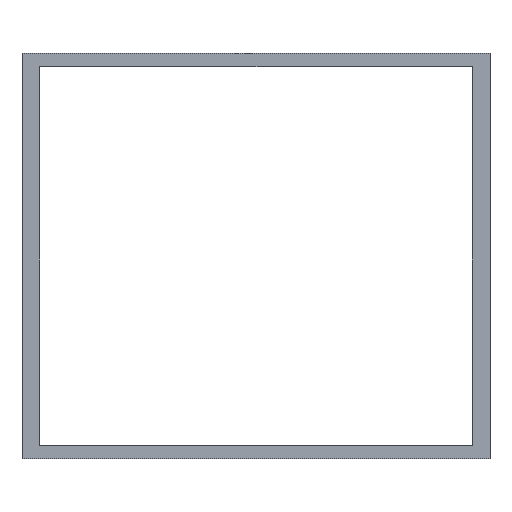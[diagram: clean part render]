
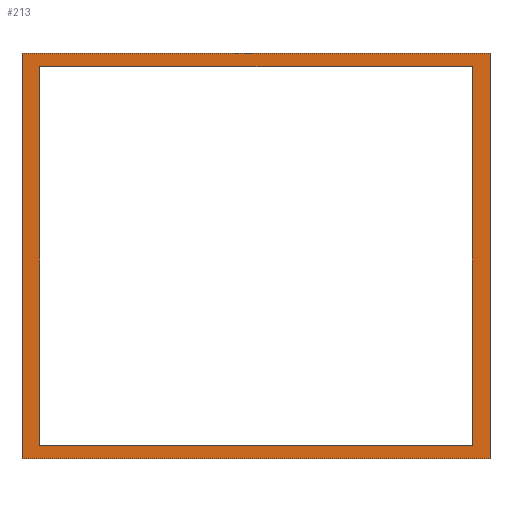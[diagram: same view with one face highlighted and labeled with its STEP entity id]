
A CAD part, top view. The second image highlights one B-rep face of the part: STEP entity #213.
In plain terms, the highlighted planar face has unit normal (0, 0, 1).
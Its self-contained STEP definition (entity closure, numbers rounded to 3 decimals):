
#24 = VERTEX_POINT('',#25);
#25 = CARTESIAN_POINT('',(-173.,-10.,0.));
#32 = PLANE('',#33);
#33 = AXIS2_PLACEMENT_3D('',#34,#35,#36);
#34 = CARTESIAN_POINT('',(-173.,-10.,-6.));
#35 = DIRECTION('',(1.,0.,0.));
#36 = DIRECTION('',(0.,0.,1.));
#44 = PLANE('',#45);
#45 = AXIS2_PLACEMENT_3D('',#46,#47,#48);
#46 = CARTESIAN_POINT('',(-173.,-10.,-6.));
#47 = DIRECTION('',(0.,1.,0.));
#48 = DIRECTION('',(0.,0.,1.));
#85 = VERTEX_POINT('',#86);
#86 = CARTESIAN_POINT('',(-173.,290.,0.));
#100 = PLANE('',#101);
#101 = AXIS2_PLACEMENT_3D('',#102,#103,#104);
#102 = CARTESIAN_POINT('',(-173.,290.,-6.));
#103 = DIRECTION('',(0.,1.,0.));
#104 = DIRECTION('',(0.,0.,1.));
#112 = EDGE_CURVE('',#24,#85,#113,.T.);
#113 = SURFACE_CURVE('',#114,(#118,#125),.PCURVE_S1.);
#114 = LINE('',#115,#116);
#115 = CARTESIAN_POINT('',(-173.,-10.,0.));
#116 = VECTOR('',#117,1.);
#117 = DIRECTION('',(0.,1.,0.));
#118 = PCURVE('',#32,#119);
#119 = DEFINITIONAL_REPRESENTATION('',(#120),#124);
#120 = LINE('',#121,#122);
#121 = CARTESIAN_POINT('',(6.,0.));
#122 = VECTOR('',#123,1.);
#123 = DIRECTION('',(0.,-1.));
#124 = ( GEOMETRIC_REPRESENTATION_CONTEXT(2) 
PARAMETRIC_REPRESENTATION_CONTEXT() REPRESENTATION_CONTEXT('2D SPACE',''
  ) );
#125 = PCURVE('',#126,#131);
#126 = PLANE('',#127);
#127 = AXIS2_PLACEMENT_3D('',#128,#129,#130);
#128 = CARTESIAN_POINT('',(-173.,-10.,0.));
#129 = DIRECTION('',(0.,0.,1.));
#130 = DIRECTION('',(1.,0.,0.));
#131 = DEFINITIONAL_REPRESENTATION('',(#132),#136);
#132 = LINE('',#133,#134);
#133 = CARTESIAN_POINT('',(0.,0.));
#134 = VECTOR('',#135,1.);
#135 = DIRECTION('',(0.,1.));
#136 = ( GEOMETRIC_REPRESENTATION_CONTEXT(2) 
PARAMETRIC_REPRESENTATION_CONTEXT() REPRESENTATION_CONTEXT('2D SPACE',''
  ) );
#165 = EDGE_CURVE('',#24,#166,#168,.T.);
#166 = VERTEX_POINT('',#167);
#167 = CARTESIAN_POINT('',(173.,-10.,0.));
#168 = SURFACE_CURVE('',#169,(#173,#180),.PCURVE_S1.);
#169 = LINE('',#170,#171);
#170 = CARTESIAN_POINT('',(-173.,-10.,0.));
#171 = VECTOR('',#172,1.);
#172 = DIRECTION('',(1.,0.,0.));
#173 = PCURVE('',#44,#174);
#174 = DEFINITIONAL_REPRESENTATION('',(#175),#179);
#175 = LINE('',#176,#177);
#176 = CARTESIAN_POINT('',(6.,0.));
#177 = VECTOR('',#178,1.);
#178 = DIRECTION('',(0.,1.));
#179 = ( GEOMETRIC_REPRESENTATION_CONTEXT(2) 
PARAMETRIC_REPRESENTATION_CONTEXT() REPRESENTATION_CONTEXT('2D SPACE',''
  ) );
#180 = PCURVE('',#126,#181);
#181 = DEFINITIONAL_REPRESENTATION('',(#182),#186);
#182 = LINE('',#183,#184);
#183 = CARTESIAN_POINT('',(0.,0.));
#184 = VECTOR('',#185,1.);
#185 = DIRECTION('',(1.,0.));
#186 = ( GEOMETRIC_REPRESENTATION_CONTEXT(2) 
PARAMETRIC_REPRESENTATION_CONTEXT() REPRESENTATION_CONTEXT('2D SPACE',''
  ) );
#202 = PLANE('',#203);
#203 = AXIS2_PLACEMENT_3D('',#204,#205,#206);
#204 = CARTESIAN_POINT('',(173.,-10.,-6.));
#205 = DIRECTION('',(1.,0.,0.));
#206 = DIRECTION('',(0.,0.,1.));
#213 = ADVANCED_FACE('',(#214,#262),#126,.T.);
#214 = FACE_BOUND('',#215,.T.);
#215 = EDGE_LOOP('',(#216,#217,#218,#241));
#216 = ORIENTED_EDGE('',*,*,#112,.F.);
#217 = ORIENTED_EDGE('',*,*,#165,.T.);
#218 = ORIENTED_EDGE('',*,*,#219,.T.);
#219 = EDGE_CURVE('',#166,#220,#222,.T.);
#220 = VERTEX_POINT('',#221);
#221 = CARTESIAN_POINT('',(173.,290.,0.));
#222 = SURFACE_CURVE('',#223,(#227,#234),.PCURVE_S1.);
#223 = LINE('',#224,#225);
#224 = CARTESIAN_POINT('',(173.,-10.,0.));
#225 = VECTOR('',#226,1.);
#226 = DIRECTION('',(0.,1.,0.));
#227 = PCURVE('',#126,#228);
#228 = DEFINITIONAL_REPRESENTATION('',(#229),#233);
#229 = LINE('',#230,#231);
#230 = CARTESIAN_POINT('',(346.,0.));
#231 = VECTOR('',#232,1.);
#232 = DIRECTION('',(0.,1.));
#233 = ( GEOMETRIC_REPRESENTATION_CONTEXT(2) 
PARAMETRIC_REPRESENTATION_CONTEXT() REPRESENTATION_CONTEXT('2D SPACE',''
  ) );
#234 = PCURVE('',#202,#235);
#235 = DEFINITIONAL_REPRESENTATION('',(#236),#240);
#236 = LINE('',#237,#238);
#237 = CARTESIAN_POINT('',(6.,0.));
#238 = VECTOR('',#239,1.);
#239 = DIRECTION('',(0.,-1.));
#240 = ( GEOMETRIC_REPRESENTATION_CONTEXT(2) 
PARAMETRIC_REPRESENTATION_CONTEXT() REPRESENTATION_CONTEXT('2D SPACE',''
  ) );
#241 = ORIENTED_EDGE('',*,*,#242,.F.);
#242 = EDGE_CURVE('',#85,#220,#243,.T.);
#243 = SURFACE_CURVE('',#244,(#248,#255),.PCURVE_S1.);
#244 = LINE('',#245,#246);
#245 = CARTESIAN_POINT('',(-173.,290.,0.));
#246 = VECTOR('',#247,1.);
#247 = DIRECTION('',(1.,0.,0.));
#248 = PCURVE('',#126,#249);
#249 = DEFINITIONAL_REPRESENTATION('',(#250),#254);
#250 = LINE('',#251,#252);
#251 = CARTESIAN_POINT('',(0.,300.));
#252 = VECTOR('',#253,1.);
#253 = DIRECTION('',(1.,0.));
#254 = ( GEOMETRIC_REPRESENTATION_CONTEXT(2) 
PARAMETRIC_REPRESENTATION_CONTEXT() REPRESENTATION_CONTEXT('2D SPACE',''
  ) );
#255 = PCURVE('',#100,#256);
#256 = DEFINITIONAL_REPRESENTATION('',(#257),#261);
#257 = LINE('',#258,#259);
#258 = CARTESIAN_POINT('',(6.,0.));
#259 = VECTOR('',#260,1.);
#260 = DIRECTION('',(0.,1.));
#261 = ( GEOMETRIC_REPRESENTATION_CONTEXT(2) 
PARAMETRIC_REPRESENTATION_CONTEXT() REPRESENTATION_CONTEXT('2D SPACE',''
  ) );
#262 = FACE_BOUND('',#263,.T.);
#263 = EDGE_LOOP('',(#264,#292,#318,#344));
#264 = ORIENTED_EDGE('',*,*,#265,.T.);
#265 = EDGE_CURVE('',#266,#268,#270,.T.);
#266 = VERTEX_POINT('',#267);
#267 = CARTESIAN_POINT('',(160.,0.,0.));
#268 = VERTEX_POINT('',#269);
#269 = CARTESIAN_POINT('',(-160.,0.,0.));
#270 = SURFACE_CURVE('',#271,(#275,#281),.PCURVE_S1.);
#271 = LINE('',#272,#273);
#272 = CARTESIAN_POINT('',(-166.5,0.,0.));
#273 = VECTOR('',#274,1.);
#274 = DIRECTION('',(-1.,0.,0.));
#275 = PCURVE('',#126,#276);
#276 = DEFINITIONAL_REPRESENTATION('',(#277),#280);
#277 = B_SPLINE_CURVE_WITH_KNOTS('',1,(#278,#279),.UNSPECIFIED.,.F.,.F.,
  (2,2),(-326.5,-6.5),.PIECEWISE_BEZIER_KNOTS.);
#278 = CARTESIAN_POINT('',(333.,10.));
#279 = CARTESIAN_POINT('',(13.,10.));
#280 = ( GEOMETRIC_REPRESENTATION_CONTEXT(2) 
PARAMETRIC_REPRESENTATION_CONTEXT() REPRESENTATION_CONTEXT('2D SPACE',''
  ) );
#281 = PCURVE('',#282,#287);
#282 = PLANE('',#283);
#283 = AXIS2_PLACEMENT_3D('',#284,#285,#286);
#284 = CARTESIAN_POINT('',(-160.,0.,-7.));
#285 = DIRECTION('',(0.,1.,0.));
#286 = DIRECTION('',(0.,0.,1.));
#287 = DEFINITIONAL_REPRESENTATION('',(#288),#291);
#288 = B_SPLINE_CURVE_WITH_KNOTS('',1,(#289,#290),.UNSPECIFIED.,.F.,.F.,
  (2,2),(-326.5,-6.5),.PIECEWISE_BEZIER_KNOTS.);
#289 = CARTESIAN_POINT('',(7.,320.));
#290 = CARTESIAN_POINT('',(7.,0.));
#291 = ( GEOMETRIC_REPRESENTATION_CONTEXT(2) 
PARAMETRIC_REPRESENTATION_CONTEXT() REPRESENTATION_CONTEXT('2D SPACE',''
  ) );
#292 = ORIENTED_EDGE('',*,*,#293,.T.);
#293 = EDGE_CURVE('',#268,#294,#296,.T.);
#294 = VERTEX_POINT('',#295);
#295 = CARTESIAN_POINT('',(-160.,280.,0.));
#296 = SURFACE_CURVE('',#297,(#301,#307),.PCURVE_S1.);
#297 = LINE('',#298,#299);
#298 = CARTESIAN_POINT('',(-160.,-5.,0.));
#299 = VECTOR('',#300,1.);
#300 = DIRECTION('',(0.,1.,0.));
#301 = PCURVE('',#126,#302);
#302 = DEFINITIONAL_REPRESENTATION('',(#303),#306);
#303 = B_SPLINE_CURVE_WITH_KNOTS('',1,(#304,#305),.UNSPECIFIED.,.F.,.F.,
  (2,2),(5.,285.),.PIECEWISE_BEZIER_KNOTS.);
#304 = CARTESIAN_POINT('',(13.,10.));
#305 = CARTESIAN_POINT('',(13.,290.));
#306 = ( GEOMETRIC_REPRESENTATION_CONTEXT(2) 
PARAMETRIC_REPRESENTATION_CONTEXT() REPRESENTATION_CONTEXT('2D SPACE',''
  ) );
#307 = PCURVE('',#308,#313);
#308 = PLANE('',#309);
#309 = AXIS2_PLACEMENT_3D('',#310,#311,#312);
#310 = CARTESIAN_POINT('',(-160.,0.,-7.));
#311 = DIRECTION('',(1.,0.,0.));
#312 = DIRECTION('',(0.,0.,1.));
#313 = DEFINITIONAL_REPRESENTATION('',(#314),#317);
#314 = B_SPLINE_CURVE_WITH_KNOTS('',1,(#315,#316),.UNSPECIFIED.,.F.,.F.,
  (2,2),(5.,285.),.PIECEWISE_BEZIER_KNOTS.);
#315 = CARTESIAN_POINT('',(7.,0.));
#316 = CARTESIAN_POINT('',(7.,-280.));
#317 = ( GEOMETRIC_REPRESENTATION_CONTEXT(2) 
PARAMETRIC_REPRESENTATION_CONTEXT() REPRESENTATION_CONTEXT('2D SPACE',''
  ) );
#318 = ORIENTED_EDGE('',*,*,#319,.F.);
#319 = EDGE_CURVE('',#320,#294,#322,.T.);
#320 = VERTEX_POINT('',#321);
#321 = CARTESIAN_POINT('',(160.,280.,0.));
#322 = SURFACE_CURVE('',#323,(#327,#333),.PCURVE_S1.);
#323 = LINE('',#324,#325);
#324 = CARTESIAN_POINT('',(-166.5,280.,0.));
#325 = VECTOR('',#326,1.);
#326 = DIRECTION('',(-1.,0.,0.));
#327 = PCURVE('',#126,#328);
#328 = DEFINITIONAL_REPRESENTATION('',(#329),#332);
#329 = B_SPLINE_CURVE_WITH_KNOTS('',1,(#330,#331),.UNSPECIFIED.,.F.,.F.,
  (2,2),(-326.5,-6.5),.PIECEWISE_BEZIER_KNOTS.);
#330 = CARTESIAN_POINT('',(333.,290.));
#331 = CARTESIAN_POINT('',(13.,290.));
#332 = ( GEOMETRIC_REPRESENTATION_CONTEXT(2) 
PARAMETRIC_REPRESENTATION_CONTEXT() REPRESENTATION_CONTEXT('2D SPACE',''
  ) );
#333 = PCURVE('',#334,#339);
#334 = PLANE('',#335);
#335 = AXIS2_PLACEMENT_3D('',#336,#337,#338);
#336 = CARTESIAN_POINT('',(-160.,280.,-7.));
#337 = DIRECTION('',(0.,1.,0.));
#338 = DIRECTION('',(0.,0.,1.));
#339 = DEFINITIONAL_REPRESENTATION('',(#340),#343);
#340 = B_SPLINE_CURVE_WITH_KNOTS('',1,(#341,#342),.UNSPECIFIED.,.F.,.F.,
  (2,2),(-326.5,-6.5),.PIECEWISE_BEZIER_KNOTS.);
#341 = CARTESIAN_POINT('',(7.,320.));
#342 = CARTESIAN_POINT('',(7.,0.));
#343 = ( GEOMETRIC_REPRESENTATION_CONTEXT(2) 
PARAMETRIC_REPRESENTATION_CONTEXT() REPRESENTATION_CONTEXT('2D SPACE',''
  ) );
#344 = ORIENTED_EDGE('',*,*,#345,.F.);
#345 = EDGE_CURVE('',#266,#320,#346,.T.);
#346 = SURFACE_CURVE('',#347,(#351,#357),.PCURVE_S1.);
#347 = LINE('',#348,#349);
#348 = CARTESIAN_POINT('',(160.,-5.,0.));
#349 = VECTOR('',#350,1.);
#350 = DIRECTION('',(0.,1.,0.));
#351 = PCURVE('',#126,#352);
#352 = DEFINITIONAL_REPRESENTATION('',(#353),#356);
#353 = B_SPLINE_CURVE_WITH_KNOTS('',1,(#354,#355),.UNSPECIFIED.,.F.,.F.,
  (2,2),(5.,285.),.PIECEWISE_BEZIER_KNOTS.);
#354 = CARTESIAN_POINT('',(333.,10.));
#355 = CARTESIAN_POINT('',(333.,290.));
#356 = ( GEOMETRIC_REPRESENTATION_CONTEXT(2) 
PARAMETRIC_REPRESENTATION_CONTEXT() REPRESENTATION_CONTEXT('2D SPACE',''
  ) );
#357 = PCURVE('',#358,#363);
#358 = PLANE('',#359);
#359 = AXIS2_PLACEMENT_3D('',#360,#361,#362);
#360 = CARTESIAN_POINT('',(160.,0.,-7.));
#361 = DIRECTION('',(1.,0.,0.));
#362 = DIRECTION('',(0.,0.,1.));
#363 = DEFINITIONAL_REPRESENTATION('',(#364),#367);
#364 = B_SPLINE_CURVE_WITH_KNOTS('',1,(#365,#366),.UNSPECIFIED.,.F.,.F.,
  (2,2),(5.,285.),.PIECEWISE_BEZIER_KNOTS.);
#365 = CARTESIAN_POINT('',(7.,0.));
#366 = CARTESIAN_POINT('',(7.,-280.));
#367 = ( GEOMETRIC_REPRESENTATION_CONTEXT(2) 
PARAMETRIC_REPRESENTATION_CONTEXT() REPRESENTATION_CONTEXT('2D SPACE',''
  ) );
